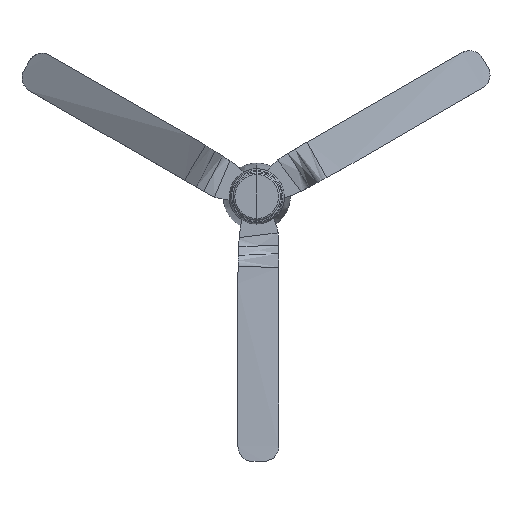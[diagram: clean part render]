
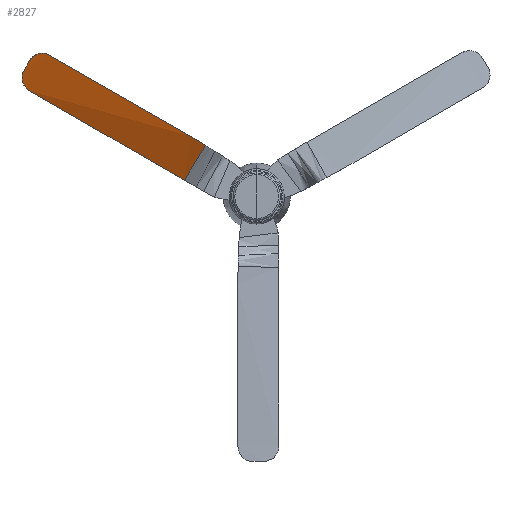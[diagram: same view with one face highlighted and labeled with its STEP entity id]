
A CAD part, top view. The second image highlights one B-rep face of the part: STEP entity #2827.
In plain terms, the highlighted free-form (B-spline) face has degree [1, 1] with [2, 2] control points.
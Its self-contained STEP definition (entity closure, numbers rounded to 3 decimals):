
#373=FACE_OUTER_BOUND('',#535,.T.);
#535=EDGE_LOOP('',(#2021,#2022,#2023,#2024,#2025,#2026,#2027));
#694=B_SPLINE_CURVE_WITH_KNOTS('',3,(#4106,#4107,#4108,#4109,#4110),
 .UNSPECIFIED.,.F.,.F.,(4,1,4),(0.,0.5,1.),.UNSPECIFIED.);
#697=B_SPLINE_CURVE_WITH_KNOTS('',3,(#4136,#4137,#4138,#4139,#4140,#4141,
#4142,#4143,#4144,#4145,#4146,#4147,#4148,#4149),.UNSPECIFIED.,.F.,.F.,
(4,2,2,2,2,2,4),(0.,3.159,7.212,
16.037,30.313,44.193,60.579),
 .UNSPECIFIED.);
#699=B_SPLINE_CURVE_WITH_KNOTS('',3,(#4163,#4164,#4165,#4166,#4167,#4168,
#4169,#4170,#4171),.UNSPECIFIED.,.F.,.F.,(4,1,1,1,1,1,4),(0.,0.167,
0.333,0.5,0.667,0.833,1.),
 .UNSPECIFIED.);
#703=B_SPLINE_CURVE_WITH_KNOTS('',3,(#4199,#4200,#4201,#4202,#4203),
 .UNSPECIFIED.,.F.,.F.,(4,1,4),(0.,0.5,1.),.UNSPECIFIED.);
#715=B_SPLINE_CURVE_WITH_KNOTS('',3,(#4347,#4348,#4349,#4350,#4351,#4352,
#4353,#4354,#4355),.UNSPECIFIED.,.F.,.F.,(4,1,1,1,1,1,4),(0.,0.167,
0.333,0.5,0.667,0.833,1.),
 .UNSPECIFIED.);
#717=B_SPLINE_CURVE_WITH_KNOTS('',3,(#4373,#4374,#4375,#4376,#4377,#4378,
#4379,#4380,#4381,#4382,#4383,#4384,#4385,#4386,#4387,#4388),
 .UNSPECIFIED.,.F.,.F.,(4,2,2,2,2,2,2,4),(0.,8.455,
17.219,30.428,43.801,53.194,57.549,
60.905),.UNSPECIFIED.);
#847=LINE('',#4414,#1011);
#1011=VECTOR('',#3394,304.8);
#1166=VERTEX_POINT('',#4102);
#1168=VERTEX_POINT('',#4105);
#1171=VERTEX_POINT('',#4120);
#1173=VERTEX_POINT('',#4152);
#1177=VERTEX_POINT('',#4198);
#1203=VERTEX_POINT('',#4310);
#1205=VERTEX_POINT('',#4340);
#1463=EDGE_CURVE('',#1168,#1166,#694,.T.);
#1468=EDGE_CURVE('',#1171,#1168,#697,.T.);
#1471=EDGE_CURVE('',#1173,#1171,#699,.T.);
#1476=EDGE_CURVE('',#1177,#1173,#703,.T.);
#1519=EDGE_CURVE('',#1203,#1205,#715,.T.);
#1521=EDGE_CURVE('',#1166,#1203,#717,.T.);
#1523=EDGE_CURVE('',#1205,#1177,#847,.T.);
#2021=ORIENTED_EDGE('',*,*,#1523,.T.);
#2022=ORIENTED_EDGE('',*,*,#1476,.T.);
#2023=ORIENTED_EDGE('',*,*,#1471,.T.);
#2024=ORIENTED_EDGE('',*,*,#1468,.T.);
#2025=ORIENTED_EDGE('',*,*,#1463,.T.);
#2026=ORIENTED_EDGE('',*,*,#1521,.T.);
#2027=ORIENTED_EDGE('',*,*,#1519,.T.);
#2781=B_SPLINE_SURFACE_WITH_KNOTS('',1,1,((#4445,#4446),(#4447,#4448)),
 .UNSPECIFIED.,.F.,.F.,.F.,(2,2),(2,2),(0.,1.),(0.,1.),.UNSPECIFIED.);
#2827=ADVANCED_FACE('',(#373),#2781,.T.);
#3394=DIRECTION('',(0.465,0.765,0.446));
#4102=CARTESIAN_POINT('',(-580.162,315.131,140.702));
#4105=CARTESIAN_POINT('',(-566.701,338.445,150.034));
#4106=CARTESIAN_POINT('Ctrl Pts',(-566.701,338.445,150.034));
#4107=CARTESIAN_POINT('Ctrl Pts',(-568.945,334.559,148.479));
#4108=CARTESIAN_POINT('Ctrl Pts',(-573.431,326.788,145.369));
#4109=CARTESIAN_POINT('Ctrl Pts',(-577.918,319.016,142.258));
#4110=CARTESIAN_POINT('Ctrl Pts',(-580.162,315.131,140.702));
#4120=CARTESIAN_POINT('',(-516.194,352.04,166.487));
#4136=CARTESIAN_POINT('Ctrl Pts',(-516.194,352.04,166.487));
#4137=CARTESIAN_POINT('Ctrl Pts',(-517.103,352.562,166.384));
#4138=CARTESIAN_POINT('Ctrl Pts',(-518.032,353.045,166.264));
#4139=CARTESIAN_POINT('Ctrl Pts',(-520.192,354.053,165.957));
#4140=CARTESIAN_POINT('Ctrl Pts',(-521.433,354.551,165.76));
#4141=CARTESIAN_POINT('Ctrl Pts',(-525.443,355.917,165.061));
#4142=CARTESIAN_POINT('Ctrl Pts',(-528.272,356.52,164.476));
#4143=CARTESIAN_POINT('Ctrl Pts',(-535.736,357.231,162.714));
#4144=CARTESIAN_POINT('Ctrl Pts',(-540.341,356.797,161.41));
#4145=CARTESIAN_POINT('Ctrl Pts',(-548.96,354.359,158.574));
#4146=CARTESIAN_POINT('Ctrl Pts',(-552.936,352.414,157.065));
#4147=CARTESIAN_POINT('Ctrl Pts',(-560.628,346.8,153.688));
#4148=CARTESIAN_POINT('Ctrl Pts',(-564.117,342.921,151.825));
#4149=CARTESIAN_POINT('Ctrl Pts',(-566.701,338.445,150.034));
#4152=CARTESIAN_POINT('',(-164.643,150.147,206.722));
#4163=CARTESIAN_POINT('Ctrl Pts',(-164.643,150.147,206.722));
#4164=CARTESIAN_POINT('Ctrl Pts',(-184.173,161.363,204.48));
#4165=CARTESIAN_POINT('Ctrl Pts',(-223.233,183.795,199.999));
#4166=CARTESIAN_POINT('Ctrl Pts',(-281.824,217.444,193.284));
#4167=CARTESIAN_POINT('Ctrl Pts',(-340.416,251.092,186.575));
#4168=CARTESIAN_POINT('Ctrl Pts',(-399.008,284.741,179.872));
#4169=CARTESIAN_POINT('Ctrl Pts',(-457.601,318.391,173.176));
#4170=CARTESIAN_POINT('Ctrl Pts',(-496.663,340.824,168.716));
#4171=CARTESIAN_POINT('Ctrl Pts',(-516.194,352.04,166.487));
#4198=CARTESIAN_POINT('',(-127.78,127.262,210.302));
#4199=CARTESIAN_POINT('Ctrl Pts',(-127.78,127.262,210.302));
#4200=CARTESIAN_POINT('Ctrl Pts',(-133.924,131.077,209.708));
#4201=CARTESIAN_POINT('Ctrl Pts',(-146.212,138.705,208.518));
#4202=CARTESIAN_POINT('Ctrl Pts',(-158.499,146.333,207.322));
#4203=CARTESIAN_POINT('Ctrl Pts',(-164.643,150.147,206.722));
#4310=CARTESIAN_POINT('',(-566.321,263.502,130.113));
#4340=CARTESIAN_POINT('',(-180.38,40.795,159.854));
#4347=CARTESIAN_POINT('Ctrl Pts',(-566.321,263.502,130.113));
#4348=CARTESIAN_POINT('Ctrl Pts',(-544.88,251.13,131.764));
#4349=CARTESIAN_POINT('Ctrl Pts',(-501.998,226.384,135.067));
#4350=CARTESIAN_POINT('Ctrl Pts',(-437.674,189.266,140.023));
#4351=CARTESIAN_POINT('Ctrl Pts',(-373.35,152.149,144.98));
#4352=CARTESIAN_POINT('Ctrl Pts',(-309.027,115.031,149.937));
#4353=CARTESIAN_POINT('Ctrl Pts',(-244.703,77.913,154.895));
#4354=CARTESIAN_POINT('Ctrl Pts',(-201.821,53.168,158.201));
#4355=CARTESIAN_POINT('Ctrl Pts',(-180.38,40.795,159.854));
#4373=CARTESIAN_POINT('Ctrl Pts',(-580.162,315.131,140.702));
#4374=CARTESIAN_POINT('Ctrl Pts',(-581.493,312.825,139.779));
#4375=CARTESIAN_POINT('Ctrl Pts',(-582.581,310.377,138.877));
#4376=CARTESIAN_POINT('Ctrl Pts',(-584.256,305.179,137.111));
#4377=CARTESIAN_POINT('Ctrl Pts',(-584.819,302.433,136.254));
#4378=CARTESIAN_POINT('Ctrl Pts',(-585.452,295.419,134.248));
#4379=CARTESIAN_POINT('Ctrl Pts',(-585.126,291.129,133.183));
#4380=CARTESIAN_POINT('Ctrl Pts',(-582.993,282.717,131.43));
#4381=CARTESIAN_POINT('Ctrl Pts',(-581.187,278.67,130.761));
#4382=CARTESIAN_POINT('Ctrl Pts',(-576.948,272.428,130.06));
#4383=CARTESIAN_POINT('Ctrl Pts',(-574.884,270.073,129.901));
#4384=CARTESIAN_POINT('Ctrl Pts',(-571.464,267.032,129.872));
#4385=CARTESIAN_POINT('Ctrl Pts',(-570.327,266.132,129.892));
#4386=CARTESIAN_POINT('Ctrl Pts',(-568.227,264.659,129.982));
#4387=CARTESIAN_POINT('Ctrl Pts',(-567.287,264.059,130.038));
#4388=CARTESIAN_POINT('Ctrl Pts',(-566.321,263.502,130.113));
#4414=CARTESIAN_POINT('',(-180.38,40.795,159.854));
#4445=CARTESIAN_POINT('Ctrl Pts',(-127.059,128.448,210.994));
#4446=CARTESIAN_POINT('Ctrl Pts',(-180.432,40.709,159.803));
#4447=CARTESIAN_POINT('Ctrl Pts',(-547.377,371.119,163.223));
#4448=CARTESIAN_POINT('Ctrl Pts',(-599.649,282.744,127.548));
